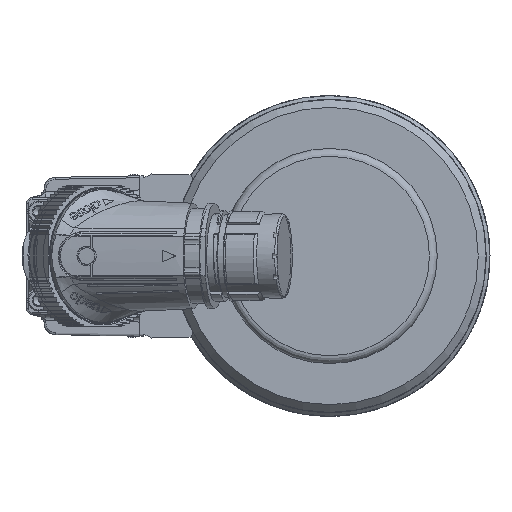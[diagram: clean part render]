
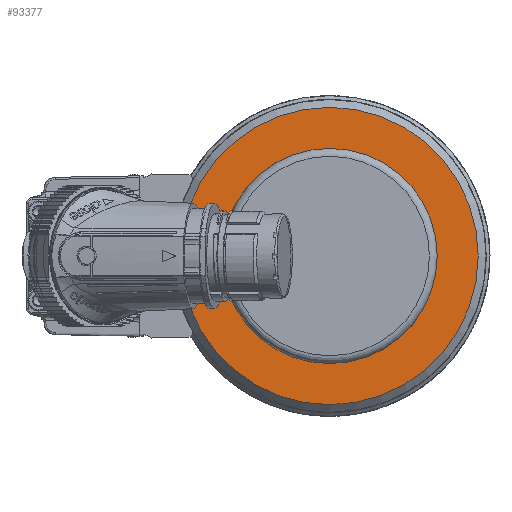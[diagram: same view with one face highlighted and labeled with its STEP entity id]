
A CAD part, left-side view. The second image highlights one B-rep face of the part: STEP entity #93377.
In plain terms, the highlighted planar face has unit normal (-1, 0, 0).
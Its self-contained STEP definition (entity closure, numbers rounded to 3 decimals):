
#4207 = PLANE ( 'NONE',  #9493 ) ;
#8326 = EDGE_LOOP ( 'NONE', ( #100868 ) ) ;
#9493 = AXIS2_PLACEMENT_3D ( 'NONE', #78696, #103701, #54021 ) ;
#15612 = CARTESIAN_POINT ( 'NONE',  ( -357.5, 0., 0. ) ) ;
#23888 = DIRECTION ( 'NONE',  ( 0., 0., 1. ) ) ;
#25859 = DIRECTION ( 'NONE',  ( 1., 0., 0. ) ) ;
#44639 = CARTESIAN_POINT ( 'NONE',  ( -357.5, 0., -27.5 ) ) ;
#47508 = ORIENTED_EDGE ( 'NONE', *, *, #63244, .T. ) ;
#48445 = CIRCLE ( 'NONE', #92709, 37.999 ) ;
#51888 = FACE_BOUND ( 'NONE', #83518, .T. ) ;
#52200 = FACE_OUTER_BOUND ( 'NONE', #8326, .T. ) ;
#54021 = DIRECTION ( 'NONE',  ( 0., 0., 1. ) ) ;
#63244 = EDGE_CURVE ( 'NONE', #70238, #70238, #64777, .T. ) ;
#64777 = CIRCLE ( 'NONE', #64787, 27.5 ) ;
#64787 = AXIS2_PLACEMENT_3D ( 'NONE', #75403, #25859, #83747 ) ;
#70238 = VERTEX_POINT ( 'NONE', #44639 ) ;
#73442 = DIRECTION ( 'NONE',  ( -1., 0., 0. ) ) ;
#75403 = CARTESIAN_POINT ( 'NONE',  ( -357.5, 0., 0. ) ) ;
#78696 = CARTESIAN_POINT ( 'NONE',  ( -357.5, 27.5, 0. ) ) ;
#83518 = EDGE_LOOP ( 'NONE', ( #47508 ) ) ;
#83747 = DIRECTION ( 'NONE',  ( 0., 0., -1. ) ) ;
#92709 = AXIS2_PLACEMENT_3D ( 'NONE', #15612, #73442, #23888 ) ;
#93377 = ADVANCED_FACE ( 'NONE', ( #52200, #51888 ), #4207, .T. ) ;
#93659 = EDGE_CURVE ( 'NONE', #105145, #105145, #48445, .T. ) ;
#97053 = CARTESIAN_POINT ( 'NONE',  ( -357.5, 0., 37.999 ) ) ;
#100868 = ORIENTED_EDGE ( 'NONE', *, *, #93659, .T. ) ;
#103701 = DIRECTION ( 'NONE',  ( -1., 0., 0. ) ) ;
#105145 = VERTEX_POINT ( 'NONE', #97053 ) ;
